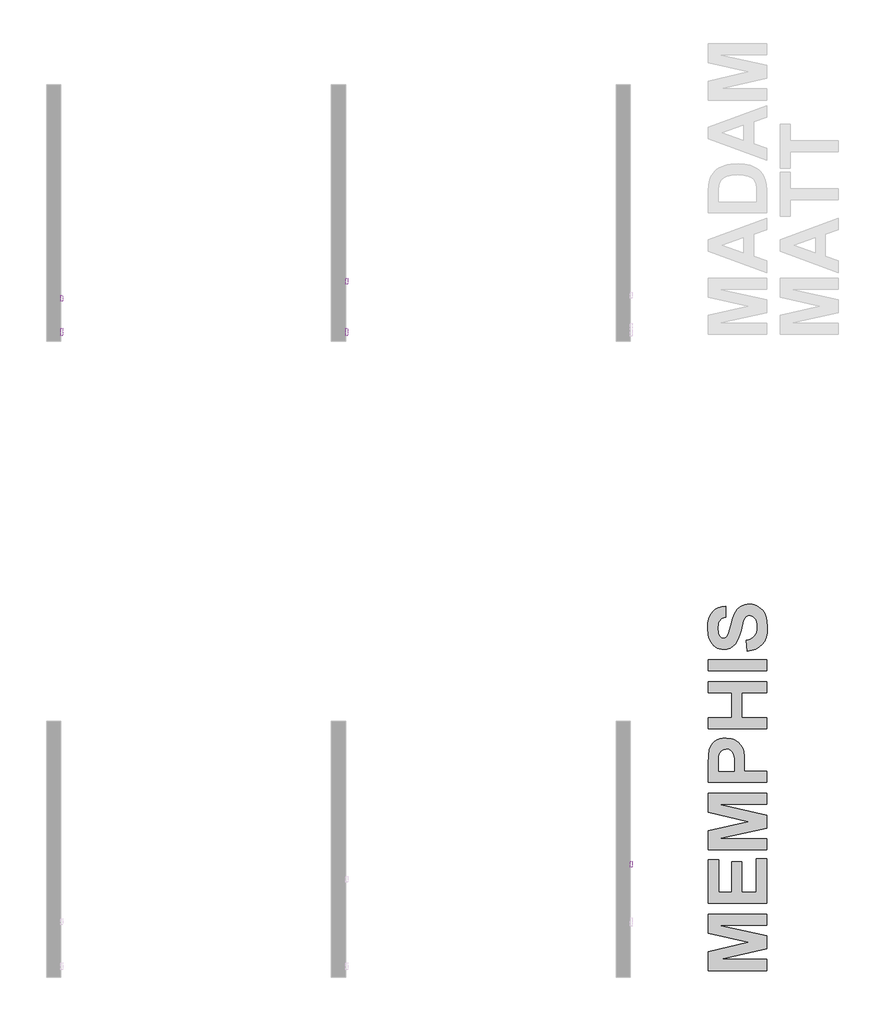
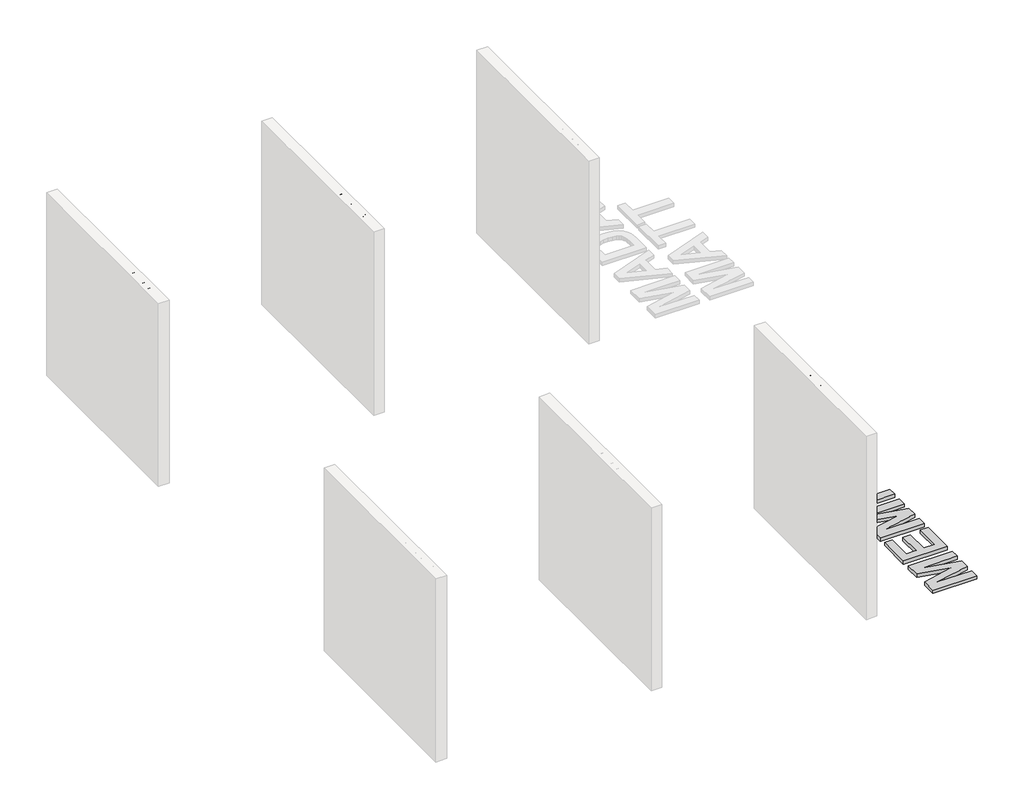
# One storey, part 6 of 7: 6 proxies.
"""IFC4 building model written with IfcOpenShell, lengths in millimetres."""

from ifc_helpers import new_model, si_unit, frame, origin, origin_with_axes, place, context, project, spatial, polyline, outline, extrude, element, save

model = new_model("IFC4")

# Units and contexts
model_context = context("Model", 3, world=origin())
ifc_project = project(units=[si_unit("LENGTHUNIT", "METRE", prefix="MILLI")], contexts=[model_context])

# Site, building, storey
site = spatial("IfcSite", under=ifc_project)
building = spatial("IfcBuilding", under=site)
storey = spatial("IfcBuildingStorey", under=building, Name="PORTOBELLO - SHOWROOM", Elevation=0.0)

# Proxies
placement = place(None, origin())
element("IfcBuildingElementProxy", 1, Name="10mm Arial", ObjectType="10mm Arial", at=placement, inside=storey, context=model_context, shape_type="SweptSolid", body=[
    extrude(outline(polyline([(10433.9778517, 2553.8086596), (10433.9778517, 2654.2649698), (10472.3111556, 2654.2649698), (10491.0854001, 2651.3096511), (10502.1709109, 2642.2229658), (10506.1808246, 2629.3716214), (10502.808573, 2617.6361858), (10492.6182417, 2608.7457042), (10504.9913395, 2599.3769761), (10509.3200843, 2583.754254), (10506.3647656, 2570.2529848), (10499.0439139, 2560.639002), (10488.1178187, 2555.537705), (10472.01685, 2553.8086596), (10433.9778517, 2553.8086596)]), holes=[polyline([(10446.5348905, 2613.4545938), (10469.4662015, 2613.4545938), (10482.8571061, 2614.5337143), (10490.9137218, 2619.1812902), (10493.6237859, 2627.3605332), (10491.0976628, 2635.552039), (10483.8626502, 2640.3958186), (10467.7248934, 2641.707931), (10446.5348905, 2641.707931), (10446.5348905, 2613.4545938)]), polyline([(10446.5348905, 2566.3656984), (10472.2866301, 2566.3656984), (10481.6063073, 2566.8562077), (10489.4912448, 2569.5907972), (10494.7151691, 2575.1703408), (10496.7630455, 2583.6316267), (10494.3595498, 2593.3927623), (10486.5727143, 2599.2175606), (10471.0603568, 2600.897555), (10446.5348905, 2600.897555), (10446.5348905, 2566.3656984)])]), frame((34576.625413, 0.0, 0.0), z_axis=(1.0, 0.0, 0.0), x_axis=(0.0, 1.0, 0.0)), (0.0, 0.0, 1.0), 20.0),
    extrude(outline(polyline([(34596.625413, 10537.5734215), (34596.625413, 10525.0163828), (34576.625413, 10525.0163828), (34576.625413, 10537.5734215), (34596.625413, 10537.5734215)])), frame((0.0, 0.0, 2553.8086596), z_axis=(0.0, 0.0, 1.0), x_axis=(1.0, 0.0, 0.0)), (0.0, 0.0, 1.0), 100.4563101),
    extrude(outline(polyline([(10603.4978751, 2563.2264387), (10591.320981, 2554.7161019), (10577.8687627, 2552.2390298), (10567.3749288, 2553.7289519), (10559.6340785, 2558.1987181), (10554.8608096, 2564.9861409), (10553.26972, 2573.4290327), (10555.6732157, 2583.3618466), (10561.9885233, 2590.5723337), (10570.780903, 2594.692612), (10581.6456846, 2596.5810729), (10603.4242987, 2600.897555), (10603.4978751, 2603.6934582), (10600.0397843, 2612.9640844), (10586.1583704, 2616.5938535), (10573.4541788, 2614.178095), (10567.3963886, 2605.6064445), (10554.8393499, 2607.1760744), (10560.2717406, 2619.4388076), (10571.2100986, 2626.6247692), (10587.7770512, 2629.1508922), (10602.995103, 2626.9190748), (10611.591279, 2621.3150057), (10615.4417772, 2612.7924062), (10616.0549138, 2601.8049973), (10616.0549138, 2586.1822752), (10616.692576, 2564.3668729), (10619.1941735, 2553.8086596), (10606.6371348, 2553.8086596), (10603.4978751, 2563.2264387)]), holes=[polyline([(10603.4978751, 2588.3405162), (10583.2398399, 2584.490018), (10572.436372, 2582.4544043), (10567.5435414, 2579.1434664), (10565.8267588, 2574.3119495), (10569.5668924, 2567.5183953), (10580.5420386, 2564.7960685), (10593.2462301, 2567.8004382), (10601.4377359, 2575.0722389), (10603.4242987, 2584.7843236), (10603.4978751, 2588.3405162)])]), frame((34576.625413, 0.0, 0.0), z_axis=(1.0, 0.0, 0.0), x_axis=(0.0, 1.0, 0.0)), (0.0, 0.0, 1.0), 20.0),
    extrude(outline(polyline([(10680.4097375, 2580.492367), (10692.9667763, 2578.9227372), (10689.465766, 2567.7544529), (10682.8868096, 2559.3146268), (10673.8491753, 2554.007929), (10662.972131, 2552.2390298), (10649.6149489, 2554.7069048), (10639.1701659, 2562.11053), (10632.4287283, 2574.1249428), (10630.1815825, 2590.4251809), (10634.0198179, 2611.28409), (10645.7184654, 2624.6872574), (10662.8004527, 2629.1508922), (10673.4107826, 2627.6180506), (10681.8935283, 2623.0195257), (10687.9789096, 2615.6005721), (10691.3971465, 2605.6064445), (10678.8401077, 2604.0368147), (10673.0153094, 2613.442331), (10662.8985546, 2616.5938535), (10654.7836909, 2615.0426177), (10648.3426903, 2610.3889105), (10644.1396385, 2602.3813457), (10642.7386212, 2590.7685374), (10644.1089817, 2578.9993792), (10648.220063, 2570.9642233), (10654.5445676, 2566.3381072), (10662.555198, 2564.7960685), (10674.3887356, 2568.6465668), (10680.4097375, 2580.492367)])), frame((34576.625413, 0.0, 0.0), z_axis=(1.0, 0.0, 0.0), x_axis=(0.0, 1.0, 0.0)), (0.0, 0.0, 1.0), 20.0),
    extrude(outline(polyline([(10703.9541852, 2553.8086596), (10703.9541852, 2654.2649698), (10716.511224, 2654.2649698), (10716.511224, 2600.2844183), (10744.6664594, 2627.5812624), (10762.0304895, 2627.5812624), (10733.5318976, 2599.9410618), (10763.6001194, 2553.8086596), (10748.9338905, 2553.8086596), (10724.5310515, 2591.2099958), (10716.511224, 2583.435423), (10716.511224, 2553.8086596), (10703.9541852, 2553.8086596)])), frame((34576.625413, 0.0, 0.0), z_axis=(1.0, 0.0, 0.0), x_axis=(0.0, 1.0, 0.0)), (0.0, 0.0, 1.0), 20.0),
])
element("IfcBuildingElementProxy", 2, Name="10mm Arial", ObjectType="10mm Arial", at=placement, inside=storey, context=model_context, shape_type="SweptSolid", body=[
    extrude(outline(polyline([(10433.9778517, 2553.8086596), (10433.9778517, 2654.2649698), (10471.2075096, 2654.2649698), (10486.217095, 2653.3084766), (10498.4185145, 2648.6118498), (10506.3279774, 2638.8997651), (10509.3200843, 2625.2022922), (10507.299799, 2613.3626233), (10501.2389432, 2603.4972544), (10489.905112, 2596.8385903), (10472.0659009, 2594.6190356), (10446.5348905, 2594.6190356), (10446.5348905, 2553.8086596), (10433.9778517, 2553.8086596)]), holes=[polyline([(10446.5348905, 2607.1760744), (10472.8016649, 2607.1760744), (10491.2938666, 2611.7868621), (10495.3957508, 2617.3357488), (10496.7630455, 2624.7608338), (10493.5379467, 2635.1596315), (10485.0643981, 2640.8495397), (10472.5073593, 2641.707931), (10446.5348905, 2641.707931), (10446.5348905, 2607.1760744)])]), frame((37576.625413, 0.0, 0.0), z_axis=(1.0, 0.0, 0.0), x_axis=(0.0, 1.0, 0.0)), (0.0, 0.0, 1.0), 20.0),
    extrude(outline(polyline([(10521.8771231, 2590.694961), (10524.5933185, 2608.4820555), (10532.7419047, 2620.9839119), (10542.8096086, 2627.1091472), (10554.8638753, 2629.1508922), (10568.0555105, 2626.6646231), (10578.592264, 2619.2058156), (10585.4992485, 2607.3630811), (10587.8015766, 2591.7250306), (10583.7303492, 2569.3823308), (10571.8722862, 2556.7394529), (10554.8638753, 2552.2390298), (10541.5128246, 2554.7161019), (10530.9883338, 2562.1473182), (10524.1549258, 2574.2383731), (10521.8771231, 2590.694961)]), holes=[polyline([(10534.4341619, 2590.7194865), (10535.8872957, 2579.3549985), (10540.2466974, 2571.2585289), (10546.8072596, 2566.4116836), (10554.8638753, 2564.7960685), (10562.8837028, 2566.4208807), (10569.4320023, 2571.2953171), (10573.791404, 2579.4990856), (10575.2445379, 2591.1118939), (10573.7822069, 2602.1452881), (10569.3952141, 2610.1313931), (10562.8377176, 2614.9782384), (10554.8638753, 2616.5938535), (10546.8072596, 2614.9843697), (10540.2466974, 2610.1559186), (10535.8872957, 2602.0778431), (10534.4341619, 2590.7194865)])]), frame((37576.625413, 0.0, 0.0), z_axis=(1.0, 0.0, 0.0), x_axis=(0.0, 1.0, 0.0)), (0.0, 0.0, 1.0), 20.0),
    extrude(outline(polyline([(10601.9282452, 2553.8086596), (10601.9282452, 2627.5812624), (10612.9156542, 2627.5812624), (10612.9156542, 2616.6674299), (10620.7147525, 2626.7228711), (10628.5629017, 2629.1508922), (10641.1689914, 2625.2758686), (10636.9751366, 2614.0186795), (10628.1459688, 2616.5938535), (10621.0458462, 2614.1167814), (10616.5208977, 2607.2496508), (10614.485284, 2592.5834219), (10614.485284, 2553.8086596), (10601.9282452, 2553.8086596)])), frame((37576.625413, 0.0, 0.0), z_axis=(1.0, 0.0, 0.0), x_axis=(0.0, 1.0, 0.0)), (0.0, 0.0, 1.0), 20.0),
    extrude(outline(polyline([(10675.700848, 2564.2810338), (10677.2704778, 2553.4407776), (10667.8772242, 2552.2390298), (10657.3557992, 2554.3236944), (10652.1073494, 2559.7928734), (10650.5867705, 2574.0421694), (10650.5867705, 2615.0242236), (10641.1689914, 2615.0242236), (10641.1689914, 2625.2758686), (10641.1689914, 2627.5812624), (10650.5867705, 2627.5812624), (10650.5867705, 2645.5093783), (10663.1438092, 2652.8915437), (10663.1438092, 2627.5812624), (10675.700848, 2627.5812624), (10675.700848, 2615.0242236), (10663.1438092, 2615.0242236), (10663.1438092, 2574.4100514), (10663.8059968, 2567.9353282), (10665.9519751, 2565.6421971), (10670.231669, 2564.7960685), (10675.700848, 2564.2810338)])), frame((37576.625413, 0.0, 0.0), z_axis=(1.0, 0.0, 0.0), x_axis=(0.0, 1.0, 0.0)), (0.0, 0.0, 1.0), 20.0),
    extrude(outline(polyline([(37596.625413, 10700.8149255), (37596.625413, 10688.2578868), (37576.625413, 10688.2578868), (37576.625413, 10700.8149255), (37596.625413, 10700.8149255)])), frame((0.0, 0.0, 2553.8086596), z_axis=(0.0, 0.0, 1.0), x_axis=(1.0, 0.0, 0.0)), (0.0, 0.0, 1.0), 100.4563101),
    extrude(outline(polyline([(10766.7393791, 2563.2264387), (10754.562485, 2554.7161019), (10741.1102667, 2552.2390298), (10730.6164328, 2553.7289519), (10722.8755825, 2558.1987181), (10718.1023136, 2564.9861409), (10716.511224, 2573.4290327), (10718.9147197, 2583.3618466), (10725.2300273, 2590.5723337), (10734.022407, 2594.692612), (10744.8871886, 2596.5810729), (10766.6658027, 2600.897555), (10766.7393791, 2603.6934582), (10763.2812883, 2612.9640844), (10749.3998744, 2616.5938535), (10736.6956828, 2614.178095), (10730.6378926, 2605.6064445), (10718.0808538, 2607.1760744), (10723.5132446, 2619.4388076), (10734.4516026, 2626.6247692), (10751.0185551, 2629.1508922), (10766.236607, 2626.9190748), (10774.832783, 2621.3150057), (10778.6832812, 2612.7924062), (10779.2964178, 2601.8049973), (10779.2964178, 2586.1822752), (10779.93408, 2564.3668729), (10782.4356775, 2553.8086596), (10769.8786388, 2553.8086596), (10766.7393791, 2563.2264387)]), holes=[polyline([(10766.7393791, 2588.3405162), (10746.4813439, 2584.490018), (10735.6778759, 2582.4544043), (10730.7850454, 2579.1434664), (10729.0682628, 2574.3119495), (10732.8083964, 2567.5183953), (10743.7835426, 2564.7960685), (10756.4877341, 2567.8004382), (10764.6792399, 2575.0722389), (10766.6658027, 2584.7843236), (10766.7393791, 2588.3405162)])]), frame((37576.625413, 0.0, 0.0), z_axis=(1.0, 0.0, 0.0), x_axis=(0.0, 1.0, 0.0)), (0.0, 0.0, 1.0), 20.0),
    extrude(outline(polyline([(10796.5623461, 2553.8086596), (10796.5623461, 2627.5812624), (10809.1193849, 2627.5812624), (10809.1193849, 2617.2805665), (10818.721105, 2626.1833108), (10831.8299668, 2629.1508922), (10843.6880297, 2626.7596593), (10851.7814336, 2620.4811399), (10855.5460927, 2611.2473018), (10856.2082803, 2599.107196), (10856.2082803, 2553.8086596), (10843.6512415, 2553.8086596), (10843.6512415, 2597.4149388), (10842.204239, 2608.524975), (10837.0906793, 2614.3988242), (10828.4699779, 2616.5938535), (10814.8460813, 2611.6642347), (10810.551059, 2604.5211927), (10809.1193849, 2592.9513039), (10809.1193849, 2553.8086596), (10796.5623461, 2553.8086596)])), frame((37576.625413, 0.0, 0.0), z_axis=(1.0, 0.0, 0.0), x_axis=(0.0, 1.0, 0.0)), (0.0, 0.0, 1.0), 20.0),
    extrude(outline(polyline([(10918.9934741, 2553.8086596), (10918.9934741, 2565.6544599), (10910.6854724, 2555.5928873), (10899.2014228, 2552.2390298), (10883.6522771, 2557.0950721), (10872.6648682, 2570.6453923), (10868.7653191, 2590.6213846), (10872.3582999, 2610.6096397), (10883.1249796, 2624.3684263), (10899.1523719, 2629.1508922), (10910.728392, 2625.7295897), (10918.9934741, 2616.8391081), (10918.9934741, 2654.2649698), (10931.5505129, 2654.2649698), (10931.5505129, 2553.8086596), (10918.9934741, 2553.8086596)]), holes=[polyline([(10881.3223578, 2590.6704355), (10882.7387035, 2579.3120789), (10886.9877406, 2571.2340035), (10893.1620267, 2566.4055523), (10900.3541197, 2564.7960685), (10907.543147, 2566.3319759), (10913.5610833, 2570.9396979), (10917.6353764, 2578.7050736), (10918.9934741, 2589.7139424), (10917.610851, 2601.749815), (10913.4629815, 2610.0946049), (10907.291761, 2614.9690413), (10899.8390849, 2616.5938535), (10892.5734155, 2615.0334207), (10886.6198586, 2610.3521223), (10882.646733, 2602.310835), (10881.3223578, 2590.6704355)])]), frame((37576.625413, 0.0, 0.0), z_axis=(1.0, 0.0, 0.0), x_axis=(0.0, 1.0, 0.0)), (0.0, 0.0, 1.0), 20.0),
])
element("IfcBuildingElementProxy", 3, Name="10mm Arial Narrow", ObjectType="10mm Arial Narrow", at=placement, inside=storey, context=model_context, shape_type="SweptSolid", body=[
    extrude(outline(polyline([(4836.2917513, 2553.8086596), (4836.2917513, 2654.5272634), (4867.588636, 2654.5272634), (4883.8843375, 2652.6489426), (4895.3573236, 2643.1684995), (4899.6470021, 2626.1493906), (4897.8606937, 2614.0735651), (4892.5017685, 2604.4471713), (4882.7579797, 2598.1459129), (4867.8170804, 2596.0454935), (4846.038713, 2596.0454935), (4846.038713, 2553.8086596), (4836.2917513, 2553.8086596)]), holes=[polyline([(4846.038713, 2607.4169487), (4869.0100679, 2607.4169487), (4884.8742633, 2611.9477629), (4889.9000404, 2625.6163537), (4887.4252259, 2635.7821301), (4881.4475971, 2641.5820799), (4868.7816235, 2643.1558081), (4846.038713, 2643.1558081), (4846.038713, 2607.4169487)])]), frame((40576.625413, 0.0, 0.0), z_axis=(1.0, 0.0, 0.0), x_axis=(0.0, 1.0, 0.0)), (0.0, 0.0, 1.0), 20.0),
    extrude(outline(polyline([(4907.7694701, 2590.3597658), (4909.723939, 2606.9505414), (4915.5873456, 2618.9026262), (4924.4459123, 2626.1271808), (4935.3858615, 2628.5353656), (4946.1988971, 2626.1271808), (4955.0828465, 2618.9026262), (4961.0224012, 2607.1409117), (4963.0022528, 2591.1212472), (4961.0573025, 2573.9593606), (4955.2224514, 2561.8169055), (4946.3734032, 2554.5923509), (4935.3858615, 2552.184166), (4924.5252333, 2554.5986966), (4915.6508024, 2561.8422882), (4909.7398032, 2573.8007187), (4907.7694701, 2590.3597658)]), holes=[polyline([(4917.5164318, 2590.3851485), (4918.8204686, 2577.8333971), (4922.7325792, 2568.9621391), (4928.573776, 2563.6888805), (4935.6650713, 2561.9311277), (4942.3851445, 2563.7047447), (4948.0772178, 2569.0255959), (4951.9607728, 2577.9127181), (4953.2552912, 2590.3851485), (4951.9512543, 2602.8988259), (4948.0391437, 2611.7573926), (4942.197947, 2617.0306511), (4935.1066516, 2618.788404), (4928.3389859, 2617.0211326), (4922.6564311, 2611.7193185), (4918.8014316, 2602.8512333), (4917.5164318, 2590.3851485)])]), frame((40576.625413, 0.0, 0.0), z_axis=(1.0, 0.0, 0.0), x_axis=(0.0, 1.0, 0.0)), (0.0, 0.0, 1.0), 20.0),
    extrude(outline(polyline([(5034.4799716, 2561.9311277), (5036.1044652, 2552.184166), (5028.7434786, 2552.184166), (5020.4687142, 2554.3036225), (5016.1536531, 2560.1035724), (5014.9860483, 2574.7493976), (5014.9860483, 2617.1639104), (5006.8635803, 2617.1639104), (5006.8635803, 2620.4128976), (5005.2390867, 2615.5394168), (4997.6750383, 2617.1639104), (4991.5958786, 2614.8413922), (4987.7250149, 2608.3561091), (4985.7451634, 2592.9488025), (4985.7451634, 2553.8086596), (4975.9982017, 2553.8086596), (4975.9982017, 2626.910872), (4985.7451634, 2626.910872), (4985.7451634, 2617.2146758), (4991.9893107, 2626.3016869), (4998.3857542, 2628.5353656), (5006.8635803, 2626.910872), (5014.9860483, 2626.910872), (5014.9860483, 2643.1558081), (5024.73301, 2651.2782762), (5024.73301, 2626.910872), (5034.4799716, 2626.910872), (5034.4799716, 2617.1639104), (5024.73301, 2617.1639104), (5024.73301, 2572.5157188), (5025.5960222, 2564.5201644), (5030.2156759, 2561.9311277), (5034.4799716, 2561.9311277)])), frame((40576.625413, 0.0, 0.0), z_axis=(1.0, 0.0, 0.0), x_axis=(0.0, 1.0, 0.0)), (0.0, 0.0, 1.0), 20.0),
    extrude(outline(polyline([(5040.9779461, 2590.3597658), (5042.9324149, 2606.9505414), (5048.7958215, 2618.9026262), (5057.6543883, 2626.1271808), (5068.5943374, 2628.5353656), (5079.407373, 2626.1271808), (5088.2913224, 2618.9026262), (5094.2308772, 2607.1409117), (5096.2107288, 2591.1212472), (5094.2657784, 2573.9593606), (5088.4309273, 2561.8169055), (5079.5818791, 2554.5923509), (5068.5943374, 2552.184166), (5057.7337092, 2554.5986966), (5048.8592783, 2561.8422882), (5042.9482791, 2573.8007187), (5040.9779461, 2590.3597658)]), holes=[polyline([(5050.7249077, 2590.3851485), (5052.0289446, 2577.8333971), (5055.9410552, 2568.9621391), (5061.7822519, 2563.6888805), (5068.8735472, 2561.9311277), (5075.5936204, 2563.7047447), (5081.2856937, 2569.0255959), (5085.1692488, 2577.9127181), (5086.4637671, 2590.3851485), (5085.1597302, 2602.8988259), (5081.2476197, 2611.7573926), (5075.4064229, 2617.0306511), (5068.3151276, 2618.788404), (5061.5474618, 2617.0211326), (5055.864907, 2611.7193185), (5052.0099075, 2602.8512333), (5050.7249077, 2590.3851485)])]), frame((40576.625413, 0.0, 0.0), z_axis=(1.0, 0.0, 0.0), x_axis=(0.0, 1.0, 0.0)), (0.0, 0.0, 1.0), 20.0),
    extrude(outline(polyline([(5118.9536393, 2553.8086596), (5109.2066776, 2553.8086596), (5109.2066776, 2654.5272634), (5118.9536393, 2654.5272634), (5118.9536393, 2619.1183792), (5126.3527, 2626.2001561), (5135.5539333, 2628.5353656), (5148.43566, 2624.3345267), (5157.7130415, 2611.6050963), (5161.1904731, 2590.9181855), (5159.2582141, 2574.463842), (5153.4614371, 2562.2611029), (5145.0883148, 2554.7034002), (5135.4270198, 2552.184166), (5126.0861815, 2554.7985854), (5118.9536393, 2562.5656955), (5118.9536393, 2553.8086596)]), holes=[polyline([(5118.9536393, 2590.9181855), (5121.0350217, 2573.6706323), (5126.9238111, 2564.9389791), (5135.3762544, 2561.9311277), (5141.318982, 2563.7206089), (5146.5573393, 2569.0890526), (5151.4435115, 2590.5120621), (5146.7350183, 2611.9477629), (5141.4903153, 2617.0782437), (5135.1731927, 2618.788404), (5129.1955638, 2616.9989227), (5123.9032682, 2611.630479), (5118.9536393, 2590.9181855)])]), frame((40576.625413, 0.0, 0.0), z_axis=(1.0, 0.0, 0.0), x_axis=(0.0, 1.0, 0.0)), (0.0, 0.0, 1.0), 20.0),
    extrude(outline(polyline([(5213.1742686, 2576.5515701), (5222.9212303, 2574.9270765), (5219.2216999, 2565.04051), (5213.402713, 2557.9206591), (5205.6990597, 2553.6182893), (5196.3455301, 2552.184166), (5184.7519761, 2554.5986966), (5175.6078539, 2561.8422882), (5169.6682991, 2573.6484224), (5167.6884475, 2589.7505807), (5169.6778177, 2606.4175044), (5175.645928, 2618.5980336), (5184.6599638, 2626.0510326), (5195.7871104, 2628.5353656), (5206.4700596, 2626.1366993), (5215.217577, 2618.9407003), (5221.052428, 2607.2011957), (5222.9973784, 2591.1720126), (5222.9212303, 2587.9230254), (5177.4354092, 2587.9230254), (5183.4384207, 2568.4798675), (5189.368457, 2563.5683126), (5196.4724437, 2561.9311277), (5206.6509115, 2565.5862383), (5213.1742686, 2576.5515701)]), holes=[polyline([(5178.0953597, 2597.6699871), (5213.1742686, 2597.6699871), (5208.9099729, 2611.9350716), (5203.0846403, 2617.0750709), (5195.8632586, 2618.788404), (5183.6541738, 2613.0772936), (5178.0953597, 2597.6699871)])]), frame((40576.625413, 0.0, 0.0), z_axis=(1.0, 0.0, 0.0), x_axis=(0.0, 1.0, 0.0)), (0.0, 0.0, 1.0), 20.0),
    extrude(outline(polyline([(40596.625413, 5245.6641408), (40596.625413, 5235.9171791), (40576.625413, 5235.9171791), (40576.625413, 5245.6641408), (40596.625413, 5245.6641408)])), frame((0.0, 0.0, 2553.8086596), z_axis=(0.0, 0.0, 1.0), x_axis=(1.0, 0.0, 0.0)), (0.0, 0.0, 1.0), 100.7186038),
    extrude(outline(polyline([(40596.625413, 5271.6560385), (40596.625413, 5261.9090769), (40576.625413, 5261.9090769), (40576.625413, 5271.6560385), (40596.625413, 5271.6560385)])), frame((0.0, 0.0, 2553.8086596), z_axis=(0.0, 0.0, 1.0), x_axis=(1.0, 0.0, 0.0)), (0.0, 0.0, 1.0), 100.7186038),
    extrude(outline(polyline([(5283.0274938, 2590.3597658), (5284.9819627, 2606.9505414), (5290.8453693, 2618.9026262), (5299.703936, 2626.1271808), (5310.6438851, 2628.5353656), (5321.4569207, 2626.1271808), (5330.3408701, 2618.9026262), (5336.2804249, 2607.1409117), (5338.2602765, 2591.1212472), (5336.3153261, 2573.9593606), (5330.4804751, 2561.8169055), (5321.6314269, 2554.5923509), (5310.6438851, 2552.184166), (5299.783257, 2554.5986966), (5290.9088261, 2561.8422882), (5284.9978269, 2573.8007187), (5283.0274938, 2590.3597658)]), holes=[polyline([(5292.7744554, 2590.3851485), (5294.0784923, 2577.8333971), (5297.9906029, 2568.9621391), (5303.8317996, 2563.6888805), (5310.923095, 2561.9311277), (5317.6431681, 2563.7047447), (5323.3352415, 2569.0255959), (5327.2187965, 2577.9127181), (5328.5133148, 2590.3851485), (5327.209278, 2602.8988259), (5323.2971674, 2611.7573926), (5317.4559706, 2617.0306511), (5310.3646753, 2618.788404), (5303.5970095, 2617.0211326), (5297.9144547, 2611.7193185), (5294.0594553, 2602.8512333), (5292.7744554, 2590.3851485)])]), frame((40576.625413, 0.0, 0.0), z_axis=(1.0, 0.0, 0.0), x_axis=(0.0, 1.0, 0.0)), (0.0, 0.0, 1.0), 20.0),
])
element("IfcBuildingElementProxy", 4, Name="10mm Arial Narrow", ObjectType="10mm Arial Narrow", at=placement, inside=storey, context=model_context, shape_type="SweptSolid", body=[
    extrude(outline(polyline([(10796.2917513, 2553.8086596), (10796.2917513, 2654.5272634), (10827.588636, 2654.5272634), (10843.8843375, 2652.6489426), (10855.3573236, 2643.1684995), (10859.6470021, 2626.1493906), (10857.8606937, 2614.0735651), (10852.5017685, 2604.4471713), (10842.7579797, 2598.1459129), (10827.8170804, 2596.0454935), (10806.038713, 2596.0454935), (10806.038713, 2553.8086596), (10796.2917513, 2553.8086596)]), holes=[polyline([(10806.038713, 2607.4169487), (10829.0100679, 2607.4169487), (10844.8742633, 2611.9477629), (10849.9000404, 2625.6163537), (10847.4252259, 2635.7821301), (10841.4475971, 2641.5820799), (10828.7816235, 2643.1558081), (10806.038713, 2643.1558081), (10806.038713, 2607.4169487)])]), frame((34576.625413, 0.0, 0.0), z_axis=(1.0, 0.0, 0.0), x_axis=(0.0, 1.0, 0.0)), (0.0, 0.0, 1.0), 20.0),
    extrude(outline(polyline([(10867.7694701, 2590.3597658), (10869.723939, 2606.9505414), (10875.5873456, 2618.9026262), (10884.4459123, 2626.1271808), (10895.3858615, 2628.5353656), (10906.1988971, 2626.1271808), (10915.0828465, 2618.9026262), (10921.0224012, 2607.1409117), (10923.0022528, 2591.1212472), (10921.0573025, 2573.9593606), (10915.2224514, 2561.8169055), (10906.3734032, 2554.5923509), (10895.3858615, 2552.184166), (10884.5252333, 2554.5986966), (10875.6508024, 2561.8422882), (10869.7398032, 2573.8007187), (10867.7694701, 2590.3597658)]), holes=[polyline([(10877.5164318, 2590.3851485), (10878.8204686, 2577.8333971), (10882.7325792, 2568.9621391), (10888.573776, 2563.6888805), (10895.6650713, 2561.9311277), (10902.3851445, 2563.7047447), (10908.0772178, 2569.0255959), (10911.9607728, 2577.9127181), (10913.2552912, 2590.3851485), (10911.9512543, 2602.8988259), (10908.0391437, 2611.7573926), (10902.197947, 2617.0306511), (10895.1066516, 2618.788404), (10888.3389859, 2617.0211326), (10882.6564311, 2611.7193185), (10878.8014316, 2602.8512333), (10877.5164318, 2590.3851485)])]), frame((34576.625413, 0.0, 0.0), z_axis=(1.0, 0.0, 0.0), x_axis=(0.0, 1.0, 0.0)), (0.0, 0.0, 1.0), 20.0),
    extrude(outline(polyline([(10994.4799716, 2561.9311277), (10996.1044652, 2552.184166), (10988.7434786, 2552.184166), (10980.4687142, 2554.3036225), (10976.1536531, 2560.1035724), (10974.9860483, 2574.7493976), (10974.9860483, 2617.1639104), (10966.8635803, 2617.1639104), (10966.8635803, 2620.4128976), (10965.2390867, 2615.5394168), (10957.6750383, 2617.1639104), (10951.5958786, 2614.8413922), (10947.7250149, 2608.3561091), (10945.7451634, 2592.9488025), (10945.7451634, 2553.8086596), (10935.9982017, 2553.8086596), (10935.9982017, 2626.910872), (10945.7451634, 2626.910872), (10945.7451634, 2617.2146758), (10951.9893107, 2626.3016869), (10958.3857542, 2628.5353656), (10966.8635803, 2626.910872), (10974.9860483, 2626.910872), (10974.9860483, 2643.1558081), (10984.73301, 2651.2782762), (10984.73301, 2626.910872), (10994.4799716, 2626.910872), (10994.4799716, 2617.1639104), (10984.73301, 2617.1639104), (10984.73301, 2572.5157188), (10985.5960222, 2564.5201644), (10990.2156759, 2561.9311277), (10994.4799716, 2561.9311277)])), frame((34576.625413, 0.0, 0.0), z_axis=(1.0, 0.0, 0.0), x_axis=(0.0, 1.0, 0.0)), (0.0, 0.0, 1.0), 20.0),
    extrude(outline(polyline([(11000.9779461, 2590.3597658), (11002.9324149, 2606.9505414), (11008.7958215, 2618.9026262), (11017.6543883, 2626.1271808), (11028.5943374, 2628.5353656), (11039.407373, 2626.1271808), (11048.2913224, 2618.9026262), (11054.2308772, 2607.1409117), (11056.2107288, 2591.1212472), (11054.2657784, 2573.9593606), (11048.4309273, 2561.8169055), (11039.5818791, 2554.5923509), (11028.5943374, 2552.184166), (11017.7337092, 2554.5986966), (11008.8592783, 2561.8422882), (11002.9482791, 2573.8007187), (11000.9779461, 2590.3597658)]), holes=[polyline([(11010.7249077, 2590.3851485), (11012.0289446, 2577.8333971), (11015.9410552, 2568.9621391), (11021.7822519, 2563.6888805), (11028.8735472, 2561.9311277), (11035.5936204, 2563.7047447), (11041.2856937, 2569.0255959), (11045.1692488, 2577.9127181), (11046.4637671, 2590.3851485), (11045.1597302, 2602.8988259), (11041.2476197, 2611.7573926), (11035.4064229, 2617.0306511), (11028.3151276, 2618.788404), (11021.5474618, 2617.0211326), (11015.864907, 2611.7193185), (11012.0099075, 2602.8512333), (11010.7249077, 2590.3851485)])]), frame((34576.625413, 0.0, 0.0), z_axis=(1.0, 0.0, 0.0), x_axis=(0.0, 1.0, 0.0)), (0.0, 0.0, 1.0), 20.0),
    extrude(outline(polyline([(11078.9536393, 2553.8086596), (11069.2066776, 2553.8086596), (11069.2066776, 2654.5272634), (11078.9536393, 2654.5272634), (11078.9536393, 2619.1183792), (11086.3527, 2626.2001561), (11095.5539333, 2628.5353656), (11108.43566, 2624.3345267), (11117.7130415, 2611.6050963), (11121.1904731, 2590.9181855), (11119.2582141, 2574.463842), (11113.4614371, 2562.2611029), (11105.0883148, 2554.7034002), (11095.4270198, 2552.184166), (11086.0861815, 2554.7985854), (11078.9536393, 2562.5656955), (11078.9536393, 2553.8086596)]), holes=[polyline([(11078.9536393, 2590.9181855), (11081.0350217, 2573.6706323), (11086.9238111, 2564.9389791), (11095.3762544, 2561.9311277), (11101.318982, 2563.7206089), (11106.5573393, 2569.0890526), (11111.4435115, 2590.5120621), (11106.7350183, 2611.9477629), (11101.4903153, 2617.0782437), (11095.1731927, 2618.788404), (11089.1955638, 2616.9989227), (11083.9032682, 2611.630479), (11078.9536393, 2590.9181855)])]), frame((34576.625413, 0.0, 0.0), z_axis=(1.0, 0.0, 0.0), x_axis=(0.0, 1.0, 0.0)), (0.0, 0.0, 1.0), 20.0),
    extrude(outline(polyline([(11173.1742686, 2576.5515701), (11182.9212303, 2574.9270765), (11179.2216999, 2565.04051), (11173.402713, 2557.9206591), (11165.6990597, 2553.6182893), (11156.3455301, 2552.184166), (11144.7519761, 2554.5986966), (11135.6078539, 2561.8422882), (11129.6682991, 2573.6484224), (11127.6884475, 2589.7505807), (11129.6778177, 2606.4175044), (11135.645928, 2618.5980336), (11144.6599638, 2626.0510326), (11155.7871104, 2628.5353656), (11166.4700596, 2626.1366993), (11175.217577, 2618.9407003), (11181.052428, 2607.2011957), (11182.9973784, 2591.1720126), (11182.9212303, 2587.9230254), (11137.4354092, 2587.9230254), (11143.4384207, 2568.4798675), (11149.368457, 2563.5683126), (11156.4724437, 2561.9311277), (11166.6509115, 2565.5862383), (11173.1742686, 2576.5515701)]), holes=[polyline([(11138.0953597, 2597.6699871), (11173.1742686, 2597.6699871), (11168.9099729, 2611.9350716), (11163.0846403, 2617.0750709), (11155.8632586, 2618.788404), (11143.6541738, 2613.0772936), (11138.0953597, 2597.6699871)])]), frame((34576.625413, 0.0, 0.0), z_axis=(1.0, 0.0, 0.0), x_axis=(0.0, 1.0, 0.0)), (0.0, 0.0, 1.0), 20.0),
    extrude(outline(polyline([(34596.625413, 11205.6641408), (34596.625413, 11195.9171791), (34576.625413, 11195.9171791), (34576.625413, 11205.6641408), (34596.625413, 11205.6641408)])), frame((0.0, 0.0, 2553.8086596), z_axis=(0.0, 0.0, 1.0), x_axis=(1.0, 0.0, 0.0)), (0.0, 0.0, 1.0), 100.7186038),
    extrude(outline(polyline([(34596.625413, 11231.6560385), (34596.625413, 11221.9090769), (34576.625413, 11221.9090769), (34576.625413, 11231.6560385), (34596.625413, 11231.6560385)])), frame((0.0, 0.0, 2553.8086596), z_axis=(0.0, 0.0, 1.0), x_axis=(1.0, 0.0, 0.0)), (0.0, 0.0, 1.0), 100.7186038),
    extrude(outline(polyline([(11243.0274938, 2590.3597658), (11244.9819627, 2606.9505414), (11250.8453693, 2618.9026262), (11259.703936, 2626.1271808), (11270.6438851, 2628.5353656), (11281.4569207, 2626.1271808), (11290.3408701, 2618.9026262), (11296.2804249, 2607.1409117), (11298.2602765, 2591.1212472), (11296.3153261, 2573.9593606), (11290.4804751, 2561.8169055), (11281.6314269, 2554.5923509), (11270.6438851, 2552.184166), (11259.783257, 2554.5986966), (11250.9088261, 2561.8422882), (11244.9978269, 2573.8007187), (11243.0274938, 2590.3597658)]), holes=[polyline([(11252.7744554, 2590.3851485), (11254.0784923, 2577.8333971), (11257.9906029, 2568.9621391), (11263.8317996, 2563.6888805), (11270.923095, 2561.9311277), (11277.6431681, 2563.7047447), (11283.3352415, 2569.0255959), (11287.2187965, 2577.9127181), (11288.5133148, 2590.3851485), (11287.209278, 2602.8988259), (11283.2971674, 2611.7573926), (11277.4559706, 2617.0306511), (11270.3646753, 2618.788404), (11263.5970095, 2617.0211326), (11257.9144547, 2611.7193185), (11254.0594553, 2602.8512333), (11252.7744554, 2590.3851485)])]), frame((34576.625413, 0.0, 0.0), z_axis=(1.0, 0.0, 0.0), x_axis=(0.0, 1.0, 0.0)), (0.0, 0.0, 1.0), 20.0),
])
element("IfcBuildingElementProxy", 5, Name="10mm Arial Narrow", ObjectType="10mm Arial Narrow", at=placement, inside=storey, context=model_context, shape_type="SweptSolid", body=[
    extrude(outline(polyline([(10976.2917513, 2553.8086596), (10976.2917513, 2654.5272634), (11007.588636, 2654.5272634), (11023.8843375, 2652.6489426), (11035.3573236, 2643.1684995), (11039.6470021, 2626.1493906), (11037.8606937, 2614.0735651), (11032.5017685, 2604.4471713), (11022.7579797, 2598.1459129), (11007.8170804, 2596.0454935), (10986.038713, 2596.0454935), (10986.038713, 2553.8086596), (10976.2917513, 2553.8086596)]), holes=[polyline([(10986.038713, 2607.4169487), (11009.0100679, 2607.4169487), (11024.8742633, 2611.9477629), (11029.9000404, 2625.6163537), (11027.4252259, 2635.7821301), (11021.4475971, 2641.5820799), (11008.7816235, 2643.1558081), (10986.038713, 2643.1558081), (10986.038713, 2607.4169487)])]), frame((37576.625413, 0.0, 0.0), z_axis=(1.0, 0.0, 0.0), x_axis=(0.0, 1.0, 0.0)), (0.0, 0.0, 1.0), 20.0),
    extrude(outline(polyline([(11047.7694701, 2590.3597658), (11049.723939, 2606.9505414), (11055.5873456, 2618.9026262), (11064.4459123, 2626.1271808), (11075.3858615, 2628.5353656), (11086.1988971, 2626.1271808), (11095.0828465, 2618.9026262), (11101.0224012, 2607.1409117), (11103.0022528, 2591.1212472), (11101.0573025, 2573.9593606), (11095.2224514, 2561.8169055), (11086.3734032, 2554.5923509), (11075.3858615, 2552.184166), (11064.5252333, 2554.5986966), (11055.6508024, 2561.8422882), (11049.7398032, 2573.8007187), (11047.7694701, 2590.3597658)]), holes=[polyline([(11057.5164318, 2590.3851485), (11058.8204686, 2577.8333971), (11062.7325792, 2568.9621391), (11068.573776, 2563.6888805), (11075.6650713, 2561.9311277), (11082.3851445, 2563.7047447), (11088.0772178, 2569.0255959), (11091.9607728, 2577.9127181), (11093.2552912, 2590.3851485), (11091.9512543, 2602.8988259), (11088.0391437, 2611.7573926), (11082.197947, 2617.0306511), (11075.1066516, 2618.788404), (11068.3389859, 2617.0211326), (11062.6564311, 2611.7193185), (11058.8014316, 2602.8512333), (11057.5164318, 2590.3851485)])]), frame((37576.625413, 0.0, 0.0), z_axis=(1.0, 0.0, 0.0), x_axis=(0.0, 1.0, 0.0)), (0.0, 0.0, 1.0), 20.0),
    extrude(outline(polyline([(11174.4799716, 2561.9311277), (11176.1044652, 2552.184166), (11168.7434786, 2552.184166), (11160.4687142, 2554.3036225), (11156.1536531, 2560.1035724), (11154.9860483, 2574.7493976), (11154.9860483, 2617.1639104), (11146.8635803, 2617.1639104), (11146.8635803, 2620.4128976), (11145.2390867, 2615.5394168), (11137.6750383, 2617.1639104), (11131.5958786, 2614.8413922), (11127.7250149, 2608.3561091), (11125.7451634, 2592.9488025), (11125.7451634, 2553.8086596), (11115.9982017, 2553.8086596), (11115.9982017, 2626.910872), (11125.7451634, 2626.910872), (11125.7451634, 2617.2146758), (11131.9893107, 2626.3016869), (11138.3857542, 2628.5353656), (11146.8635803, 2626.910872), (11154.9860483, 2626.910872), (11154.9860483, 2643.1558081), (11164.73301, 2651.2782762), (11164.73301, 2626.910872), (11174.4799716, 2626.910872), (11174.4799716, 2617.1639104), (11164.73301, 2617.1639104), (11164.73301, 2572.5157188), (11165.5960222, 2564.5201644), (11170.2156759, 2561.9311277), (11174.4799716, 2561.9311277)])), frame((37576.625413, 0.0, 0.0), z_axis=(1.0, 0.0, 0.0), x_axis=(0.0, 1.0, 0.0)), (0.0, 0.0, 1.0), 20.0),
    extrude(outline(polyline([(11180.9779461, 2590.3597658), (11182.9324149, 2606.9505414), (11188.7958215, 2618.9026262), (11197.6543883, 2626.1271808), (11208.5943374, 2628.5353656), (11219.407373, 2626.1271808), (11228.2913224, 2618.9026262), (11234.2308772, 2607.1409117), (11236.2107288, 2591.1212472), (11234.2657784, 2573.9593606), (11228.4309273, 2561.8169055), (11219.5818791, 2554.5923509), (11208.5943374, 2552.184166), (11197.7337092, 2554.5986966), (11188.8592783, 2561.8422882), (11182.9482791, 2573.8007187), (11180.9779461, 2590.3597658)]), holes=[polyline([(11190.7249077, 2590.3851485), (11192.0289446, 2577.8333971), (11195.9410552, 2568.9621391), (11201.7822519, 2563.6888805), (11208.8735472, 2561.9311277), (11215.5936204, 2563.7047447), (11221.2856937, 2569.0255959), (11225.1692488, 2577.9127181), (11226.4637671, 2590.3851485), (11225.1597302, 2602.8988259), (11221.2476197, 2611.7573926), (11215.4064229, 2617.0306511), (11208.3151276, 2618.788404), (11201.5474618, 2617.0211326), (11195.864907, 2611.7193185), (11192.0099075, 2602.8512333), (11190.7249077, 2590.3851485)])]), frame((37576.625413, 0.0, 0.0), z_axis=(1.0, 0.0, 0.0), x_axis=(0.0, 1.0, 0.0)), (0.0, 0.0, 1.0), 20.0),
    extrude(outline(polyline([(11258.9536393, 2553.8086596), (11249.2066776, 2553.8086596), (11249.2066776, 2654.5272634), (11258.9536393, 2654.5272634), (11258.9536393, 2619.1183792), (11266.3527, 2626.2001561), (11275.5539333, 2628.5353656), (11288.43566, 2624.3345267), (11297.7130415, 2611.6050963), (11301.1904731, 2590.9181855), (11299.2582141, 2574.463842), (11293.4614371, 2562.2611029), (11285.0883148, 2554.7034002), (11275.4270198, 2552.184166), (11266.0861815, 2554.7985854), (11258.9536393, 2562.5656955), (11258.9536393, 2553.8086596)]), holes=[polyline([(11258.9536393, 2590.9181855), (11261.0350217, 2573.6706323), (11266.9238111, 2564.9389791), (11275.3762544, 2561.9311277), (11281.318982, 2563.7206089), (11286.5573393, 2569.0890526), (11291.4435115, 2590.5120621), (11286.7350183, 2611.9477629), (11281.4903153, 2617.0782437), (11275.1731927, 2618.788404), (11269.1955638, 2616.9989227), (11263.9032682, 2611.630479), (11258.9536393, 2590.9181855)])]), frame((37576.625413, 0.0, 0.0), z_axis=(1.0, 0.0, 0.0), x_axis=(0.0, 1.0, 0.0)), (0.0, 0.0, 1.0), 20.0),
    extrude(outline(polyline([(11353.1742686, 2576.5515701), (11362.9212303, 2574.9270765), (11359.2216999, 2565.04051), (11353.402713, 2557.9206591), (11345.6990597, 2553.6182893), (11336.3455301, 2552.184166), (11324.7519761, 2554.5986966), (11315.6078539, 2561.8422882), (11309.6682991, 2573.6484224), (11307.6884475, 2589.7505807), (11309.6778177, 2606.4175044), (11315.645928, 2618.5980336), (11324.6599638, 2626.0510326), (11335.7871104, 2628.5353656), (11346.4700596, 2626.1366993), (11355.217577, 2618.9407003), (11361.052428, 2607.2011957), (11362.9973784, 2591.1720126), (11362.9212303, 2587.9230254), (11317.4354092, 2587.9230254), (11323.4384207, 2568.4798675), (11329.368457, 2563.5683126), (11336.4724437, 2561.9311277), (11346.6509115, 2565.5862383), (11353.1742686, 2576.5515701)]), holes=[polyline([(11318.0953597, 2597.6699871), (11353.1742686, 2597.6699871), (11348.9099729, 2611.9350716), (11343.0846403, 2617.0750709), (11335.8632586, 2618.788404), (11323.6541738, 2613.0772936), (11318.0953597, 2597.6699871)])]), frame((37576.625413, 0.0, 0.0), z_axis=(1.0, 0.0, 0.0), x_axis=(0.0, 1.0, 0.0)), (0.0, 0.0, 1.0), 20.0),
    extrude(outline(polyline([(37596.625413, 11385.6641408), (37596.625413, 11375.9171791), (37576.625413, 11375.9171791), (37576.625413, 11385.6641408), (37596.625413, 11385.6641408)])), frame((0.0, 0.0, 2553.8086596), z_axis=(0.0, 0.0, 1.0), x_axis=(1.0, 0.0, 0.0)), (0.0, 0.0, 1.0), 100.7186038),
    extrude(outline(polyline([(37596.625413, 11411.6560385), (37596.625413, 11401.9090769), (37576.625413, 11401.9090769), (37576.625413, 11411.6560385), (37596.625413, 11411.6560385)])), frame((0.0, 0.0, 2553.8086596), z_axis=(0.0, 0.0, 1.0), x_axis=(1.0, 0.0, 0.0)), (0.0, 0.0, 1.0), 100.7186038),
    extrude(outline(polyline([(11423.0274938, 2590.3597658), (11424.9819627, 2606.9505414), (11430.8453693, 2618.9026262), (11439.703936, 2626.1271808), (11450.6438851, 2628.5353656), (11461.4569207, 2626.1271808), (11470.3408701, 2618.9026262), (11476.2804249, 2607.1409117), (11478.2602765, 2591.1212472), (11476.3153261, 2573.9593606), (11470.4804751, 2561.8169055), (11461.6314269, 2554.5923509), (11450.6438851, 2552.184166), (11439.783257, 2554.5986966), (11430.9088261, 2561.8422882), (11424.9978269, 2573.8007187), (11423.0274938, 2590.3597658)]), holes=[polyline([(11432.7744554, 2590.3851485), (11434.0784923, 2577.8333971), (11437.9906029, 2568.9621391), (11443.8317996, 2563.6888805), (11450.923095, 2561.9311277), (11457.6431681, 2563.7047447), (11463.3352415, 2569.0255959), (11467.2187965, 2577.9127181), (11468.5133148, 2590.3851485), (11467.209278, 2602.8988259), (11463.2971674, 2611.7573926), (11457.4559706, 2617.0306511), (11450.3646753, 2618.788404), (11443.5970095, 2617.0211326), (11437.9144547, 2611.7193185), (11434.0594553, 2602.8512333), (11432.7744554, 2590.3851485)])]), frame((37576.625413, 0.0, 0.0), z_axis=(1.0, 0.0, 0.0), x_axis=(0.0, 1.0, 0.0)), (0.0, 0.0, 1.0), 20.0),
])
element("IfcBuildingElementProxy", 6, Name="600mm Arial", ObjectType="600mm Arial", at=placement, inside=storey, context=model_context, shape_type="SweptSolid", body=[
    extrude(outline(polyline([(42009.9244494, 3746.6476682), (41397.7688094, 3746.6476682), (41397.7688094, 3946.4484673), (41815.285677, 4043.008732), (41397.7688094, 4139.5689966), (41397.7688094, 4339.3697958), (42009.9244494, 4339.3697958), (42009.9244494, 4222.7687215), (41528.0340721, 4217.9103434), (42009.9244494, 4111.3296739), (42009.9244494, 3974.8396143), (41528.0340721, 3868.1071206), (42009.9244494, 3863.2487425), (42009.9244494, 3746.6476682)])), origin_with_axes(), (0.0, 0.0, 1.0), 50.0),
    extrude(outline(polyline([(42009.9244494, 4455.9708701), (41397.7688094, 4455.9708701), (41397.7688094, 4912.658411), (41504.6531275, 4912.658411), (41504.6531275, 4572.5719443), (41640.6877142, 4572.5719443), (41640.6877142, 4893.2248986), (41747.5720323, 4893.2248986), (41747.5720323, 4572.5719443), (41903.0401313, 4572.5719443), (41903.0401313, 4922.3751672), (42009.9244494, 4922.3751672), (42009.9244494, 4455.9708701)])), origin_with_axes(), (0.0, 0.0, 1.0), 50.0),
    extrude(outline(polyline([(42009.9244494, 5019.5427291), (41397.7688094, 5019.5427291), (41397.7688094, 5219.3435282), (41815.285677, 5315.9037929), (41397.7688094, 5412.4640575), (41397.7688094, 5612.2648567), (42009.9244494, 5612.2648567), (42009.9244494, 5495.6637824), (41528.0340721, 5490.8054043), (42009.9244494, 5384.2247348), (42009.9244494, 5247.7346752), (41528.0340721, 5141.0021815), (42009.9244494, 5136.1438034), (42009.9244494, 5019.5427291)])), origin_with_axes(), (0.0, 0.0, 1.0), 50.0),
    extrude(outline(polyline([(42009.9244494, 5728.865931), (41397.7688094, 5728.865931), (41397.7688094, 5926.0857168), (41400.0461741, 6018.7365053), (41406.8782683, 6072.2925326), (41415.7267792, 6097.4147123), (41428.6081235, 6120.4018625), (41445.5223011, 6141.2539833), (41466.4693122, 6159.9710747), (41491.0980628, 6175.4144543), (41519.0574594, 6186.4454397), (41550.3475019, 6193.064031), (41584.9681904, 6195.2702281), (41636.5315235, 6190.0892233), (41658.9683106, 6183.6129674), (41679.1751781, 6174.546209), (41713.259737, 6151.0134401), (41739.1457827, 6121.8631716), (41757.2698104, 6089.6574386), (41768.0683148, 6056.9582767), (41774.5588043, 6002.1117427), (41776.7223008, 5927.148487), (41776.7223008, 5845.4670052), (42009.9244494, 5845.4670052), (42009.9244494, 5728.865931)]), holes=[polyline([(41504.6531275, 5845.4670052), (41669.8379827, 5845.4670052), (41669.8379827, 5917.8872037), (41667.560618, 5983.1147253), (41660.7285238, 6022.4182449), (41649.0190735, 6045.9130577), (41632.1096403, 6063.7144587), (41611.0250385, 6074.93048), (41586.7900822, 6078.6691538), (41557.829594, 6073.4122369), (41534.4106933, 6057.6414861), (41517.6341065, 6033.8620027), (41508.6005597, 6004.5788879), (41504.6531275, 5909.3850421), (41504.6531275, 5845.4670052)])]), origin_with_axes(), (0.0, 0.0, 1.0), 50.0),
    extrude(outline(polyline([(42009.9244494, 6292.43779), (41397.7688094, 6292.43779), (41397.7688094, 6409.0388643), (41640.6877142, 6409.0388643), (41640.6877142, 6671.3912814), (41397.7688094, 6671.3912814), (41397.7688094, 6787.9923557), (42009.9244494, 6787.9923557), (42009.9244494, 6671.3912814), (41747.5720323, 6671.3912814), (41747.5720323, 6409.0388643), (42009.9244494, 6409.0388643), (42009.9244494, 6292.43779)])), origin_with_axes(), (0.0, 0.0, 1.0), 50.0),
    extrude(outline(polyline([(42009.9244494, 6904.59343), (41397.7688094, 6904.59343), (41397.7688094, 7021.1945042), (42009.9244494, 7021.1945042), (42009.9244494, 6904.59343)])), origin_with_axes(), (0.0, 0.0, 1.0), 50.0),
    extrude(outline(polyline([(41805.8725694, 7108.6453099), (41796.1558132, 7225.2463842), (41824.2243335, 7232.3062149), (41848.3074656, 7242.2507076), (41868.4052093, 7255.0798622), (41884.5175648, 7270.7936789), (41896.8722685, 7289.4396026), (41905.6970568, 7311.0650785), (41910.9919298, 7335.6701067), (41912.7568875, 7363.254687), (41911.1959437, 7392.2436422), (41906.5131125, 7417.4180115), (41898.7083938, 7438.7777949), (41887.7817876, 7456.3229924), (41874.767597, 7470.0061588), (41860.7001253, 7479.7798491), (41845.5793724, 7485.6440633), (41829.4053383, 7487.5988014), (41809.5732871, 7484.3535566), (41792.8915904, 7474.6178224), (41778.7909071, 7456.7594873), (41766.701896, 7429.1464399), (41740.7399381, 7328.0314458), (41728.0720967, 7281.0987543), (41713.9049903, 7241.7193225), (41698.2386187, 7209.8931503), (41681.0729821, 7185.6202379), (41654.4942379, 7160.4458686), (41625.1636779, 7142.4641762), (41593.0813022, 7131.6751608), (41558.2471109, 7128.0788223), (41535.3216392, 7129.7299118), (41513.1552892, 7134.6831801), (41491.7480607, 7142.9386272), (41471.0999538, 7154.4962532), (41452.0365132, 7169.1662777), (41435.3832836, 7186.7589203), (41421.140265, 7207.2741809), (41409.3074574, 7230.7120596), (41400.0082181, 7256.892265), (41393.3659043, 7285.6345057), (41388.0520532, 7350.8050931), (41391.3637211, 7404.7169586), (41401.2987247, 7451.5215484), (41417.8570642, 7491.2188624), (41441.0387393, 7523.8089006), (41469.743024, 7549.3960423), (41502.8691918, 7568.0846666), (41540.4172428, 7579.8747736), (41582.387177, 7584.7663633), (41582.387177, 7468.165289), (41560.7190005, 7462.8941385), (41542.3245358, 7455.2792002), (41527.2037829, 7445.320474), (41515.3567417, 7433.0179599), (41506.4228297, 7417.859251), (41500.0414639, 7399.33194), (41494.9363713, 7352.171512), (41500.3640906, 7302.5249608), (41507.1487397, 7282.2564147), (41516.6472484, 7265.0243549), (41532.9683623, 7249.7660112), (41553.99603, 7244.6798966), (41573.8470593, 7249.3105382), (41590.5856901, 7263.2024631), (41600.3071908, 7279.1677388), (41610.1900048, 7303.5307969), (41630.4395729, 7377.4502605), (41651.5051966, 7456.3419704), (41673.5576785, 7511.5870432), (41700.2597799, 7550.3022436), (41735.2742627, 7579.6043365), (41756.0077708, 7590.3648849), (41779.0376216, 7598.0509909), (41804.3638153, 7602.6626544), (41831.9863517, 7604.1998756), (41857.682617, 7602.3827284), (41882.5438487, 7596.9312865), (41906.5700466, 7587.8455502), (41929.7612108, 7575.1255192), (41951.0735491, 7559.0795869), (41969.4632693, 7540.0161463), (41984.9303715, 7517.9351974), (41997.4748555, 7492.8367402), (42007.1726337, 7464.5926731), (42014.0996181, 7433.0748941), (42019.6412056, 7360.2182007), (42016.229903, 7305.7322495), (42005.9959952, 7257.9645242), (41988.9394823, 7216.9150249), (41965.0603642, 7182.5837516), (41934.6433115, 7154.7334787), (41897.9729948, 7133.1269808), (41855.0494141, 7117.7642579), (41805.8725694, 7108.6453099)])), origin_with_axes(), (0.0, 0.0, 1.0), 50.0),
])

save(model, "model.ifc")
